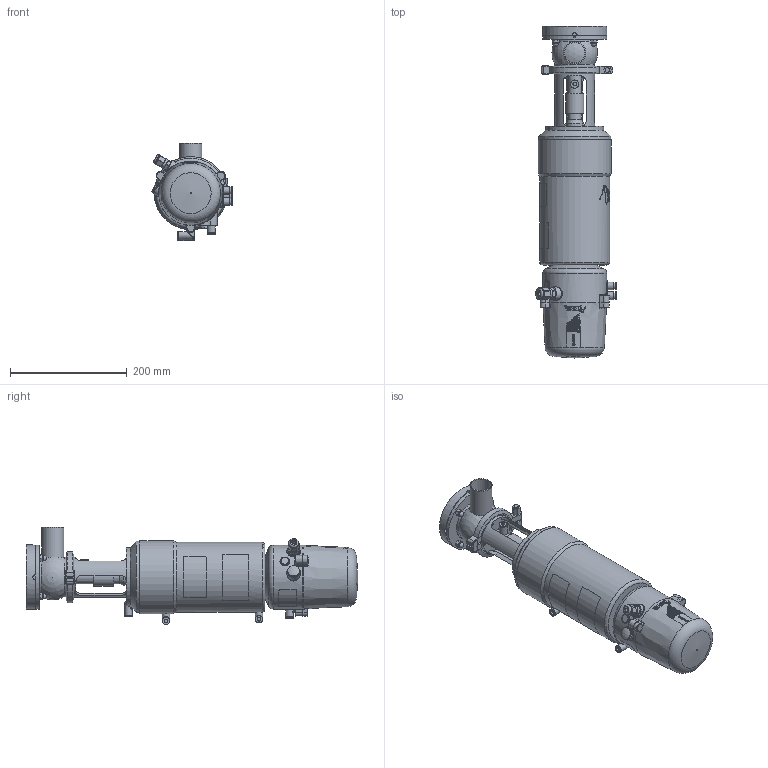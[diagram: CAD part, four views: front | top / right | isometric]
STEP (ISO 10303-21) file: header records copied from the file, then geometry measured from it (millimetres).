
FILE_DESCRIPTION (( 'STEP AP214' ), '1' );
FILE_NAME ('INNOVA T L W OD 1½ WITH FLANGE & C-TOP S_10.252.16.0007.STEP', '2024-08-20T12:55:40', ( '' ), ( '' ), 'SwSTEP 2.0', 'SolidWorks 2023', '' );
FILE_SCHEMA (( 'AUTOMOTIVE_DESIGN' ));
Length unit declared in the file: millimetre
Products named in the file (7): 10.252.15.0001_OD 1½"; 10.248.15.0003_DIN 040 _ OD 1½"; 10.250.15.0002_Type T T1; 10.240.15.0006_OD 1½"; INNOVA T L W OD 1½ WITH FLANGE & C-TOP S_10.252.16.0007; 10.240.15.0001_DN 040; 10.426.15.0001_C-TOP S - 3 EV
Assembly tree (6 placements, depth 2):
  INNOVA T L W OD 1½ WITH FLANGE & C-TOP S_10.252.16.0007
    10.240.15.0006_OD 1½"
    10.248.15.0003_DIN 040 _ OD 1½"
    10.252.15.0001_OD 1½"
    10.250.15.0002_Type T T1
    10.240.15.0001_DN 040
    10.426.15.0001_C-TOP S - 3 EV
Bounding box: 137.63 x 567.47 x 166 mm (x, y, z)
Volume: 4671829.4 mm3; surface area: 344188 mm2
Topology: 6 solids, 6 shells, 1198 faces, 2892 edges, 1923 vertices
Faces by surface type: plane 420, cylinder 376, cone 196, bspline 163, torus 33, sphere 10
Full cylindrical faces by diameter (mm): 0.371 x17, 0.512 x16, 0.658 x16, 0.795 x16, 0.94 x15, 1.098 x15, 1.241 x13, 1.382 x13, 1.523 x11, 1.669 x10, 2.201 x1, 4.2 x2, 5 x1, 5.5 x2, 6 x5, 6.15 x3, 8 x3, 9.5 x4, 10 x1, 10.5 x3, 11 x4, 12 x1, 12.5 x9, 13 x6, 13.5 x2, 14 x2, 17 x3, 20 x2, 22 x2, 23 x2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
Entity records: 60561 total; most frequent: CARTESIAN_POINT 28301, ORIENTED_EDGE 4888, DIRECTION 4011, EDGE_CURVE 2444, VERTEX_POINT 1737, EDGE_LOOP 1687, AXIS2_PLACEMENT_3D 1620, FACE_OUTER_BOUND 1428
